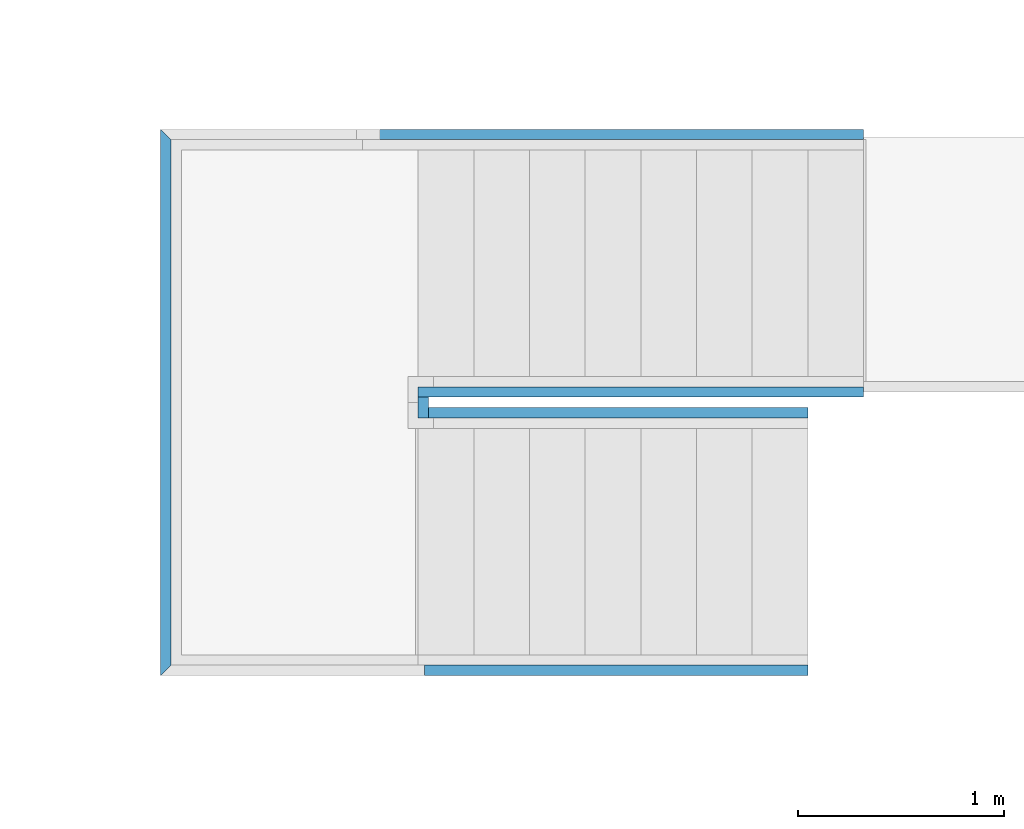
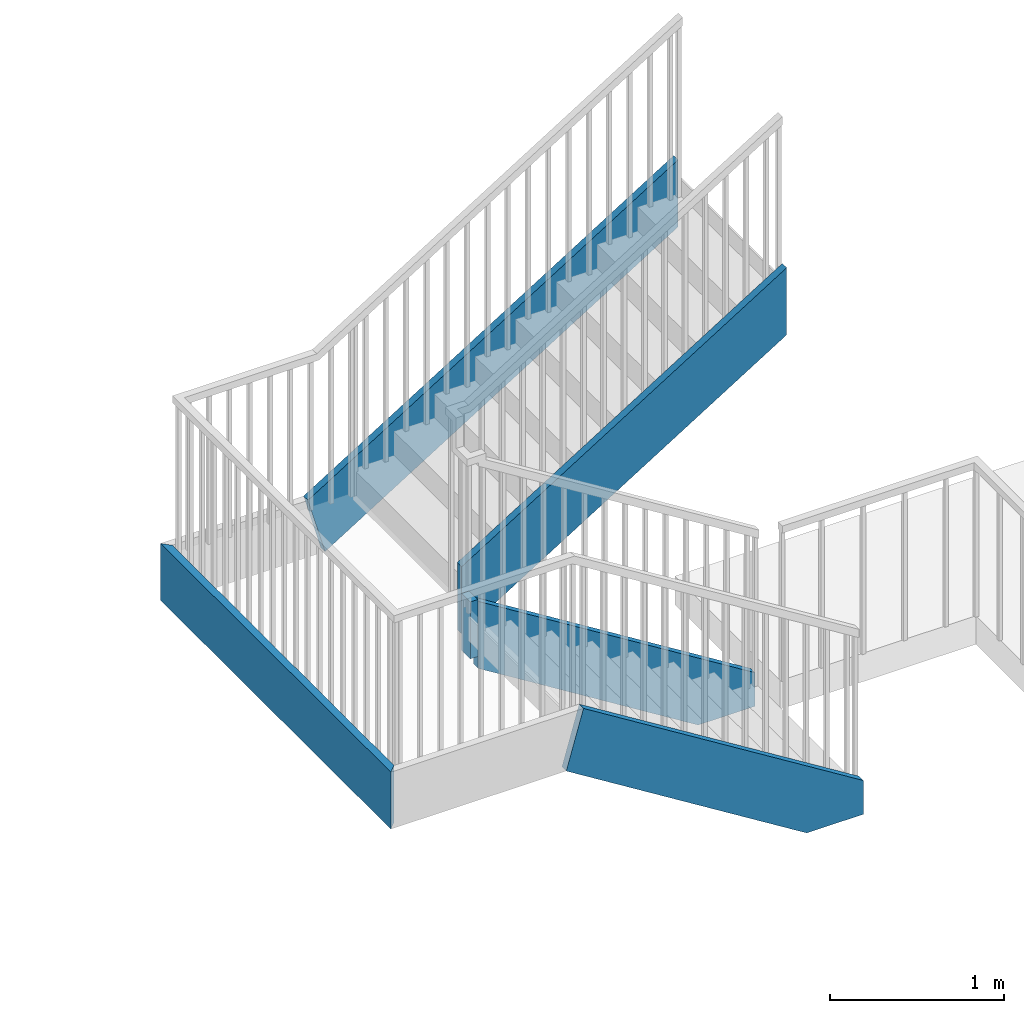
# One storey, part 1 of 14: 6 members, 1 element without a shape of its own.
"""IFC2X3 building model written with IfcOpenShell, lengths in millimetres."""

from ifc_helpers import new_model, entity, si_unit, converted_unit, derived_unit, direction, frame, frame_2d, origin, place, context, subcontext, project, spatial, polyline, rectangle, outline, extrude, type_object, element, aggregate, save


model = new_model("IFC2X3")

# Units and contexts
model_context = context("Model", 3, precision=0.01, world=origin(), true_north=direction((4.05803320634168e-15, -1.0)))
body_context = subcontext(model_context, "Body", "Model", "MODEL_VIEW")
ifc_project = project(units=[si_unit("LENGTHUNIT", "METRE", prefix="MILLI"), si_unit("AREAUNIT", "SQUARE_METRE"), si_unit("VOLUMEUNIT", "CUBIC_METRE"), converted_unit("PLANEANGLEUNIT", "DEGREE", entity("IfcRatioMeasure", 0.0174532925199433), si_unit("PLANEANGLEUNIT", "RADIAN"), dimensions=[0, 0, 0, 0, 0, 0, 0]), si_unit("MASSUNIT", "GRAM", prefix="KILO"), derived_unit("MASSDENSITYUNIT", [(si_unit("MASSUNIT", "GRAM", prefix="KILO"), 1), (si_unit("LENGTHUNIT", "METRE"), -3)]), si_unit("TIMEUNIT", "SECOND"), si_unit("FREQUENCYUNIT", "HERTZ"), si_unit("THERMODYNAMICTEMPERATUREUNIT", "DEGREE_CELSIUS"), derived_unit("THERMALTRANSMITTANCEUNIT", [(si_unit("MASSUNIT", "GRAM", prefix="KILO"), 1), (si_unit("THERMODYNAMICTEMPERATUREUNIT", "KELVIN"), -1), (si_unit("TIMEUNIT", "SECOND"), -3)]), derived_unit("VOLUMETRICFLOWRATEUNIT", [(si_unit("LENGTHUNIT", "METRE"), 3), (si_unit("TIMEUNIT", "SECOND"), -1)]), si_unit("ELECTRICCURRENTUNIT", "AMPERE"), si_unit("ELECTRICVOLTAGEUNIT", "VOLT"), si_unit("POWERUNIT", "WATT"), si_unit("FORCEUNIT", "NEWTON", prefix="KILO"), si_unit("ILLUMINANCEUNIT", "LUX"), si_unit("LUMINOUSFLUXUNIT", "LUMEN"), si_unit("LUMINOUSINTENSITYUNIT", "CANDELA"), derived_unit("USERDEFINED", [(si_unit("MASSUNIT", "GRAM", prefix="KILO"), -1), (si_unit("LENGTHUNIT", "METRE"), -2), (si_unit("TIMEUNIT", "SECOND"), 3), (si_unit("LUMINOUSFLUXUNIT", "LUMEN"), 1)]), derived_unit("LINEARVELOCITYUNIT", [(si_unit("LENGTHUNIT", "METRE"), 1), (si_unit("TIMEUNIT", "SECOND"), -1)]), si_unit("PRESSUREUNIT", "PASCAL"), derived_unit("USERDEFINED", [(si_unit("LENGTHUNIT", "METRE"), -2), (si_unit("MASSUNIT", "GRAM", prefix="KILO"), 1), (si_unit("TIMEUNIT", "SECOND"), -2)])], contexts=[model_context])

# Site, building, storey
site_placement = place(None, frame((927466.849349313, 583801.882853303, 0.0), z_axis=(0.0, 0.0, 1.0), x_axis=(-1.0, 0.0, 0.0)))
site = spatial("IfcSite", under=ifc_project, at=site_placement, Name="Surface", CompositionType="ELEMENT")
building_placement = place(site_placement, origin())
building = spatial("IfcBuilding", under=site, at=building_placement, CompositionType="ELEMENT")
storey_placement = place(building_placement, frame((0.0, 0.0, 48170.0)))
storey = spatial("IfcBuildingStorey", under=building, at=storey_placement, Name="First floor", CompositionType="ELEMENT", Elevation=48170.0)

# Stair, members
stair_placement = place(storey_placement, origin())
stair = element("IfcStair", 1, at=stair_placement, inside=storey, Name="Assembled Stair:Stair", ObjectType="Assembled Stair:170mm max riser 270mm going 1500", ShapeType="NOTDEFINED")
member_type = type_object("IfcMemberType", Name="Stringer:Stringer - 50mm Width", PredefinedType="STRINGER")
member_1_placement = place(stair_placement, origin())
member_1 = element("IfcMember", 2, at=member_1_placement, type_object=member_type, Name="Assembled Stair:Stair:634342 Stringer 1", ObjectType="Assembled Stair:170mm max riser 270mm going 1500", context=body_context, shape_type="SweptSolid", body=[
    extrude(outline(polyline([(-1472.27834953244, -200.0), (1290.62403258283, -200.0), (1539.6093575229, 200.0), (-1357.95504057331, 200.0), (-1472.27834953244, -200.0)])), frame((-76767.2070681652, 12047.1010509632, 1942.33836541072), z_axis=(0.0, 1.0, 0.0), x_axis=(-0.848964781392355, 0.0, 0.52844942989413)), (0.0, 0.0, 1.0), 49.9999999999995),
])
member_2_placement = place(stair_placement, origin())
member_2 = element("IfcMember", 3, at=member_2_placement, type_object=member_type, Name="Assembled Stair:Stair:634342 Stringer 2", ObjectType="Assembled Stair:170mm max riser 270mm going 1500", context=body_context, shape_type="SweptSolid", body=[
    extrude(outline(polyline([(-1396.63023951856, -200.0), (1147.64491457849, -200.0), (1396.63023951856, 200.0), (-1147.64491457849, 200.0), (-1396.63023951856, -200.0)])), frame((-76888.5913038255, 13297.1010509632, 2017.89559880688), z_axis=(0.0, 1.0, 0.0), x_axis=(-0.848964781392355, 0.0, 0.52844942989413)), (0.0, 0.0, 1.0), 49.9999999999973),
])
member_3_placement = place(stair_placement, origin())
member_3 = element("IfcMember", 4, at=member_3_placement, type_object=member_type, Name="Assembled Stair:Stair:634342 Stringer 3", ObjectType="Assembled Stair:170mm max riser 270mm going 1500", context=body_context, shape_type="SweptSolid", body=[
    extrude(outline(polyline([(-867.453877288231, -200.189228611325), (1323.53203280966, -200.189228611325), (1209.20872385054, 199.810771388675), (-672.751400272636, 199.810771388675), (-992.5354790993, 0.756914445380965), (-867.453877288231, -200.189228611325)])), frame((-76856.3636287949, 14647.4703266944, 525.147401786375), z_axis=(0.0, 1.0, 0.0), x_axis=(0.848964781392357, 0.0, 0.528449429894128)), (0.0, 0.0, 1.0), 49.9999999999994),
])
member_4_placement = place(stair_placement, origin())
member_4 = element("IfcMember", 5, at=member_4_placement, type_object=member_type, Name="Assembled Stair:Stair:634342 Stringer 4", ObjectType="Assembled Stair:170mm max riser 270mm going 1500", context=body_context, shape_type="SweptSolid", body=[
    extrude(outline(polyline([(-831.065310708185, -200.18922861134), (1336.28019093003, -200.18922861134), (1087.29486598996, 199.810771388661), (-636.36283369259, 199.81077138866), (-956.146912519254, 0.756914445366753), (-831.065310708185, -200.18922861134)])), frame((-76887.2562402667, 13397.4703266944, 505.917884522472), z_axis=(0.0, 1.0, 0.0), x_axis=(0.848964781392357, 0.0, 0.528449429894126)), (0.0, 0.0, 1.0), 49.9999999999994),
])
member_5_placement = place(stair_placement, origin())
member_5 = element("IfcMember", 6, at=member_5_placement, type_object=member_type, Name="Assembled Stair:Stair:634342 Stringer 6", ObjectType="Assembled Stair:170mm max riser 270mm going 1500", context=body_context, shape_type="SweptSolid", body=[
    extrude(outline(polyline([(-1325.18463786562, -25.0), (1325.18463786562, -25.0), (1275.18463786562, 25.0), (-1275.18463786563, 25.0), (-1325.18463786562, -25.0)])), frame((-74583.5913038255, 13372.2856888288, 994.520754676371), z_axis=(0.0, 0.0, 1.0), x_axis=(0.0, 1.0, 0.0)), (0.0, 0.0, 1.0), 400.000000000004),
])
member_6_placement = place(stair_placement, origin())
member_6 = element("IfcMember", 7, at=member_6_placement, type_object=member_type, Name="Assembled Stair:Stair:634342 Stringer 8", ObjectType="Assembled Stair:170mm max riser 270mm going 1500", context=body_context, shape_type="SweptSolid", body=[
    extrude(rectangle(XDim=100.369275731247, YDim=49.9999999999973, at=frame_2d((2.16715534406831e-12, 4.33253433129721e-12), x_axis=(1.0, 0.0))), frame((-75833.5913038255, 13397.2856888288, 994.520754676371), z_axis=(0.0, 0.0, 1.0), x_axis=(0.0, -1.0, 0.0)), (0.0, 0.0, 1.0), 400.000000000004),
])
aggregate(stair, [member_1, member_2, member_3, member_4, member_5, member_6])

save(model, "model.ifc")
